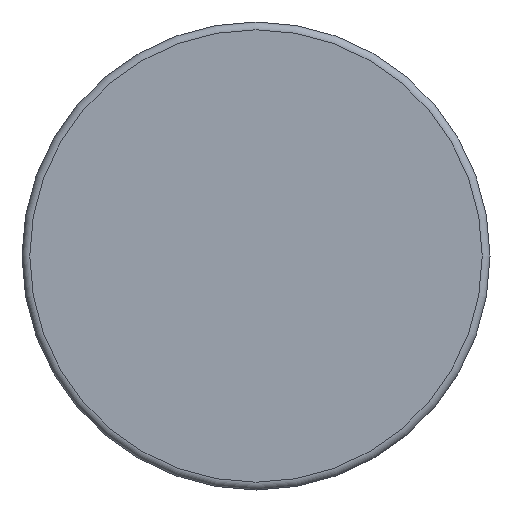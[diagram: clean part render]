
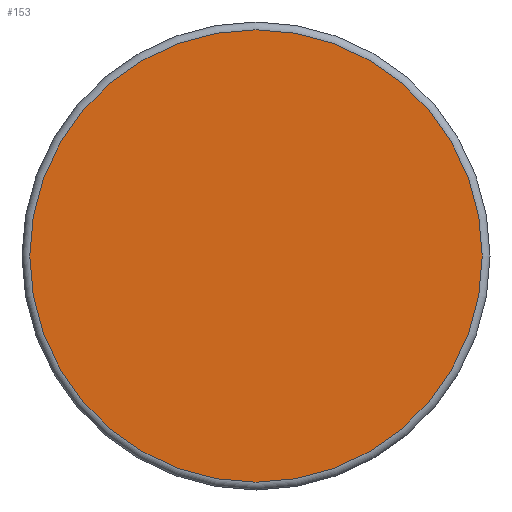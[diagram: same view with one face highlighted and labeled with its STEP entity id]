
A CAD part, front view. The second image highlights one B-rep face of the part: STEP entity #153.
In plain terms, the highlighted planar face has unit normal (0, -1, 0).
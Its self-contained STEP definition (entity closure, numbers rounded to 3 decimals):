
#153 = ADVANCED_FACE( '', ( #313 ), #314, .F. );
#313 = FACE_OUTER_BOUND( '', #513, .T. );
#314 = PLANE( '', #514 );
#513 = EDGE_LOOP( '', ( #726 ) );
#514 = AXIS2_PLACEMENT_3D( '', #727, #728, #729 );
#726 = ORIENTED_EDGE( '', *, *, #1135, .T. );
#727 = CARTESIAN_POINT( '', ( 29., 0., 0. ) );
#728 = DIRECTION( '', ( 0., 1., 0. ) );
#729 = DIRECTION( '', ( 0., 0., 1. ) );
#1135 = EDGE_CURVE( '', #1313, #1313, #1314, .T. );
#1313 = VERTEX_POINT( '', #1607 );
#1314 = CIRCLE( '', #1608, 29. );
#1607 = CARTESIAN_POINT( '', ( 0., 0., -29. ) );
#1608 = AXIS2_PLACEMENT_3D( '', #2026, #2027, #2028 );
#2026 = CARTESIAN_POINT( '', ( 0., 0., 0. ) );
#2027 = DIRECTION( '', ( 0., -1., 0. ) );
#2028 = DIRECTION( '', ( 0., 0., -1. ) );
